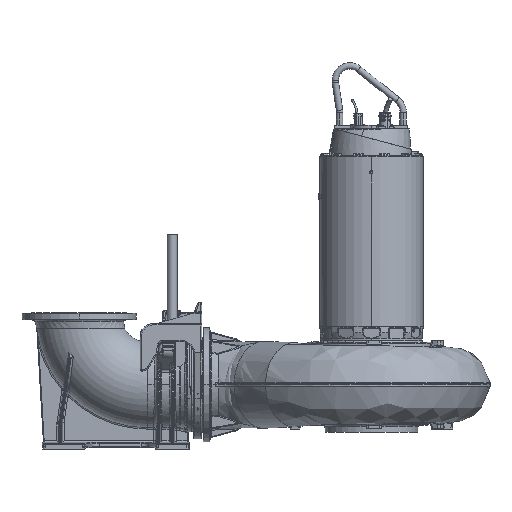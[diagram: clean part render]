
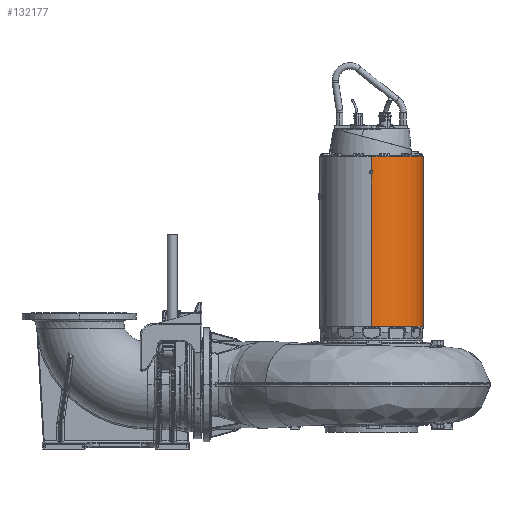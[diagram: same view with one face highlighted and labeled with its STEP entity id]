
A CAD part, top view. The second image highlights one B-rep face of the part: STEP entity #132177.
In plain terms, the highlighted cylindrical face has radius 322 mm (diameter 644 mm), a partial arc.
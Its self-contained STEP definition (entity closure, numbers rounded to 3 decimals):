
#3151 = VERTEX_POINT ( 'NONE', #113193 ) ;
#5280 = ORIENTED_EDGE ( 'NONE', *, *, #80433, .T. ) ;
#6532 = DIRECTION ( 'NONE',  ( 0., -1., 0. ) ) ;
#11639 = CARTESIAN_POINT ( 'NONE',  ( 0., 929.03, 322. ) ) ;
#11688 = CARTESIAN_POINT ( 'NONE',  ( 0., 0., 322. ) ) ;
#17624 = VERTEX_POINT ( 'NONE', #174094 ) ;
#18939 = VERTEX_POINT ( 'NONE', #198288 ) ;
#20455 = VECTOR ( 'NONE', #6532, 1000. ) ;
#21566 = CARTESIAN_POINT ( 'NONE',  ( 6.334, 947.313, 321.953 ) ) ;
#22421 = CARTESIAN_POINT ( 'NONE',  ( 9.5, 1180.349, -321.86 ) ) ;
#26611 = CARTESIAN_POINT ( 'NONE',  ( 0., -20., 0. ) ) ;
#29378 = VERTEX_POINT ( 'NONE', #81776 ) ;
#36878 = DIRECTION ( 'NONE',  ( 0., 0., -1. ) ) ;
#42927 = VECTOR ( 'NONE', #297229, 1000. ) ;
#43114 = VERTEX_POINT ( 'NONE', #289030 ) ;
#48201 = CARTESIAN_POINT ( 'NONE',  ( 0., 950.97, 322. ) ) ;
#48571 = VECTOR ( 'NONE', #341664, 1000. ) ;
#52369 =( BOUNDED_CURVE ( )  B_SPLINE_CURVE ( 3, ( #230954, #72038, #98717, #284487 ),
 .UNSPECIFIED., .F., .F. ) 
 B_SPLINE_CURVE_WITH_KNOTS ( ( 4, 4 ),
 ( 1.541, 1.571 ),
 .UNSPECIFIED. ) 
 CURVE ( )  GEOMETRIC_REPRESENTATION_ITEM ( )  RATIONAL_B_SPLINE_CURVE ( ( 1., 1., 1., 1. ) ) 
 REPRESENTATION_ITEM ( '' )  );
#53306 = DIRECTION ( 'NONE',  ( 1., 0., 0. ) ) ;
#59148 = EDGE_CURVE ( 'NONE', #221704, #29378, #173755, .T. ) ;
#61338 = ORIENTED_EDGE ( 'NONE', *, *, #253090, .T. ) ;
#63165 = ORIENTED_EDGE ( 'NONE', *, *, #342007, .F. ) ;
#64537 = CARTESIAN_POINT ( 'NONE',  ( 0., 0., -322. ) ) ;
#71873 = CARTESIAN_POINT ( 'NONE',  ( 0., 1040., 322. ) ) ;
#72038 = CARTESIAN_POINT ( 'NONE',  ( 6.334, 932.687, -321.953 ) ) ;
#80433 = EDGE_CURVE ( 'NONE', #332448, #93072, #186022, .T. ) ;
#81776 = CARTESIAN_POINT ( 'NONE',  ( 9.5, 945.485, -321.86 ) ) ;
#83051 = CIRCLE ( 'NONE', #94675, 322. ) ;
#84086 = LINE ( 'NONE', #64537, #146421 ) ;
#93072 = VERTEX_POINT ( 'NONE', #306892 ) ;
#94675 = AXIS2_PLACEMENT_3D ( 'NONE', #281013, #121963, #307655 ) ;
#98717 = CARTESIAN_POINT ( 'NONE',  ( 3.167, 930.859, -322. ) ) ;
#101963 = ORIENTED_EDGE ( 'NONE', *, *, #122933, .T. ) ;
#102342 = ORIENTED_EDGE ( 'NONE', *, *, #163321, .T. ) ;
#107922 = CARTESIAN_POINT ( 'NONE',  ( 0., 950.97, -322. ) ) ;
#111486 = CARTESIAN_POINT ( 'NONE',  ( 0., 0., -322. ) ) ;
#111907 = AXIS2_PLACEMENT_3D ( 'NONE', #274878, #141483, #36878 ) ;
#113193 = CARTESIAN_POINT ( 'NONE',  ( 0., 929.03, -322. ) ) ;
#121963 = DIRECTION ( 'NONE',  ( 0., -1., 0. ) ) ;
#122933 = EDGE_CURVE ( 'NONE', #93072, #18939, #252080, .T. ) ;
#132177 = ADVANCED_FACE ( 'NONE', ( #157963 ), #336332, .T. ) ;
#135106 = CARTESIAN_POINT ( 'NONE',  ( 6.334, 947.313, -321.953 ) ) ;
#141239 = CARTESIAN_POINT ( 'NONE',  ( 9.5, 934.515, -321.86 ) ) ;
#141483 = DIRECTION ( 'NONE',  ( 0., -1., 0. ) ) ;
#144243 = ORIENTED_EDGE ( 'NONE', *, *, #259492, .F. ) ;
#144570 = EDGE_CURVE ( 'NONE', #193432, #342883, #161669, .T. ) ;
#145560 = VECTOR ( 'NONE', #249512, 1000. ) ;
#146421 = VECTOR ( 'NONE', #223552, 1000. ) ;
#156169 = CARTESIAN_POINT ( 'NONE',  ( 9.5, 1180.349, 321.86 ) ) ;
#157963 = FACE_OUTER_BOUND ( 'NONE', #172204, .T. ) ;
#161669 = LINE ( 'NONE', #295607, #20455 ) ;
#163289 = CARTESIAN_POINT ( 'NONE',  ( 0., 929.03, 322. ) ) ;
#163321 = EDGE_CURVE ( 'NONE', #18939, #193432, #323517, .T. ) ;
#166504 = DIRECTION ( 'NONE',  ( 0., -1., 0. ) ) ;
#170605 = CARTESIAN_POINT ( 'NONE',  ( 3.167, 930.859, 322. ) ) ;
#172204 = EDGE_LOOP ( 'NONE', ( #61338, #249313, #5280, #101963, #102342, #209665, #189914, #282471, #274319, #144243, #254604, #63165 ) ) ;
#173755 =( BOUNDED_CURVE ( )  B_SPLINE_CURVE ( 3, ( #267372, #294157, #135106, #320726 ),
 .UNSPECIFIED., .F., .F. ) 
 B_SPLINE_CURVE_WITH_KNOTS ( ( 4, 4 ),
 ( 1.571, 1.6 ),
 .UNSPECIFIED. ) 
 CURVE ( )  GEOMETRIC_REPRESENTATION_ITEM ( )  RATIONAL_B_SPLINE_CURVE ( ( 1., 1., 1., 1. ) ) 
 REPRESENTATION_ITEM ( '' )  );
#174038 = AXIS2_PLACEMENT_3D ( 'NONE', #26611, #212312, #53306 ) ;
#174094 = CARTESIAN_POINT ( 'NONE',  ( 0., 1040., -322. ) ) ;
#176549 = EDGE_CURVE ( 'NONE', #330574, #332448, #216059, .T. ) ;
#186022 =( BOUNDED_CURVE ( )  B_SPLINE_CURVE ( 3, ( #48201, #207231, #21566, #233844 ),
 .UNSPECIFIED., .F., .F. ) 
 B_SPLINE_CURVE_WITH_KNOTS ( ( 4, 4 ),
 ( 1.571, 1.6 ),
 .UNSPECIFIED. ) 
 CURVE ( )  GEOMETRIC_REPRESENTATION_ITEM ( )  RATIONAL_B_SPLINE_CURVE ( ( 1., 1., 1., 1. ) ) 
 REPRESENTATION_ITEM ( '' )  );
#189914 = ORIENTED_EDGE ( 'NONE', *, *, #250860, .F. ) ;
#193432 = VERTEX_POINT ( 'NONE', #163289 ) ;
#198288 = CARTESIAN_POINT ( 'NONE',  ( 9.5, 934.515, 321.86 ) ) ;
#199396 = LINE ( 'NONE', #22421, #270008 ) ;
#207231 = CARTESIAN_POINT ( 'NONE',  ( 3.167, 949.141, 322. ) ) ;
#209665 = ORIENTED_EDGE ( 'NONE', *, *, #144570, .T. ) ;
#212312 = DIRECTION ( 'NONE',  ( 0., -1., 0. ) ) ;
#216059 = LINE ( 'NONE', #11688, #145560 ) ;
#221704 = VERTEX_POINT ( 'NONE', #107922 ) ;
#223552 = DIRECTION ( 'NONE',  ( 0., -1., 0. ) ) ;
#230954 = CARTESIAN_POINT ( 'NONE',  ( 9.5, 934.515, -321.86 ) ) ;
#233844 = CARTESIAN_POINT ( 'NONE',  ( 9.5, 945.485, 321.86 ) ) ;
#239616 = EDGE_CURVE ( 'NONE', #3151, #43114, #246431, .T. ) ;
#245950 = CIRCLE ( 'NONE', #174038, 322. ) ;
#246431 = LINE ( 'NONE', #111486, #42927 ) ;
#248309 = CARTESIAN_POINT ( 'NONE',  ( 9.5, 934.515, 321.86 ) ) ;
#249313 = ORIENTED_EDGE ( 'NONE', *, *, #176549, .T. ) ;
#249455 = CARTESIAN_POINT ( 'NONE',  ( 6.334, 932.687, 321.953 ) ) ;
#249512 = DIRECTION ( 'NONE',  ( 0., -1., 0. ) ) ;
#250860 = EDGE_CURVE ( 'NONE', #43114, #342883, #245950, .T. ) ;
#252080 = LINE ( 'NONE', #156169, #48571 ) ;
#253090 = EDGE_CURVE ( 'NONE', #17624, #330574, #83051, .T. ) ;
#254604 = ORIENTED_EDGE ( 'NONE', *, *, #59148, .F. ) ;
#259492 = EDGE_CURVE ( 'NONE', #29378, #324701, #199396, .T. ) ;
#267372 = CARTESIAN_POINT ( 'NONE',  ( 0., 950.97, -322. ) ) ;
#270008 = VECTOR ( 'NONE', #166504, 1000. ) ;
#274319 = ORIENTED_EDGE ( 'NONE', *, *, #312775, .F. ) ;
#274878 = CARTESIAN_POINT ( 'NONE',  ( 0., 0., 0. ) ) ;
#281013 = CARTESIAN_POINT ( 'NONE',  ( 0., 1040., 0. ) ) ;
#282471 = ORIENTED_EDGE ( 'NONE', *, *, #239616, .F. ) ;
#284487 = CARTESIAN_POINT ( 'NONE',  ( 0., 929.03, -322. ) ) ;
#289030 = CARTESIAN_POINT ( 'NONE',  ( 0., -20., -322. ) ) ;
#294157 = CARTESIAN_POINT ( 'NONE',  ( 3.167, 949.141, -322. ) ) ;
#295607 = CARTESIAN_POINT ( 'NONE',  ( 0., 0., 322. ) ) ;
#297229 = DIRECTION ( 'NONE',  ( 0., -1., 0. ) ) ;
#297414 = CARTESIAN_POINT ( 'NONE',  ( 0., 950.97, 322. ) ) ;
#306892 = CARTESIAN_POINT ( 'NONE',  ( 9.5, 945.485, 321.86 ) ) ;
#307655 = DIRECTION ( 'NONE',  ( 0., 0., -1. ) ) ;
#312775 = EDGE_CURVE ( 'NONE', #324701, #3151, #52369, .T. ) ;
#320726 = CARTESIAN_POINT ( 'NONE',  ( 9.5, 945.485, -321.86 ) ) ;
#323517 =( BOUNDED_CURVE ( )  B_SPLINE_CURVE ( 3, ( #248309, #249455, #170605, #11639 ),
 .UNSPECIFIED., .F., .T. ) 
 B_SPLINE_CURVE_WITH_KNOTS ( ( 4, 4 ),
 ( 1.541, 1.571 ),
 .UNSPECIFIED. ) 
 CURVE ( )  GEOMETRIC_REPRESENTATION_ITEM ( )  RATIONAL_B_SPLINE_CURVE ( ( 1., 1., 1., 1. ) ) 
 REPRESENTATION_ITEM ( '' )  );
#324701 = VERTEX_POINT ( 'NONE', #141239 ) ;
#328915 = CARTESIAN_POINT ( 'NONE',  ( 0., -20., 322. ) ) ;
#330574 = VERTEX_POINT ( 'NONE', #71873 ) ;
#332448 = VERTEX_POINT ( 'NONE', #297414 ) ;
#336332 = CYLINDRICAL_SURFACE ( 'NONE', #111907, 322. ) ;
#341664 = DIRECTION ( 'NONE',  ( 0., -1., 0. ) ) ;
#342007 = EDGE_CURVE ( 'NONE', #17624, #221704, #84086, .T. ) ;
#342883 = VERTEX_POINT ( 'NONE', #328915 ) ;
